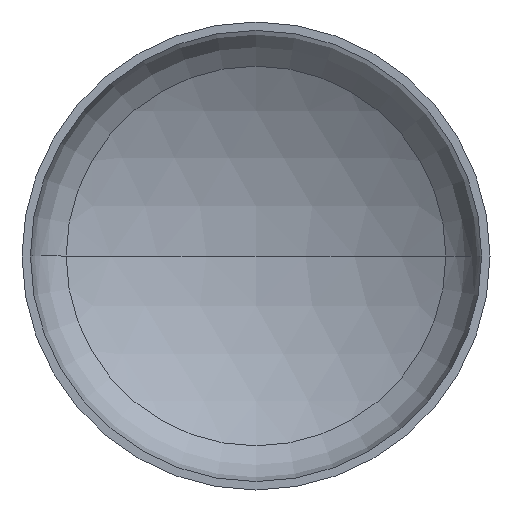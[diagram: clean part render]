
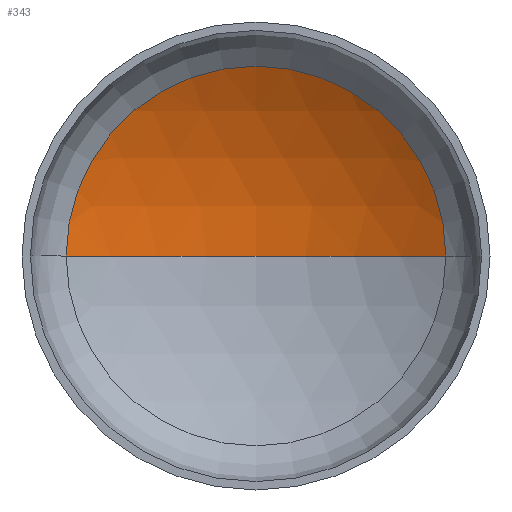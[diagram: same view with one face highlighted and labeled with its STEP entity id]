
A CAD part, front view. The second image highlights one B-rep face of the part: STEP entity #343.
In plain terms, the highlighted spherical face has radius 800 mm.
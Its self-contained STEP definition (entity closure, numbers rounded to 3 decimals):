
#6 = CARTESIAN_POINT ( 'NONE',  ( 0., 188.604, 0. ) ) ;
#20 = AXIS2_PLACEMENT_3D ( 'NONE', #143, #100, #320 ) ;
#26 = EDGE_LOOP ( 'NONE', ( #120, #111, #37 ) ) ;
#37 = ORIENTED_EDGE ( 'NONE', *, *, #153, .T. ) ;
#38 = AXIS2_PLACEMENT_3D ( 'NONE', #269, #267, #239 ) ;
#43 = AXIS2_PLACEMENT_3D ( 'NONE', #218, #214, #215 ) ;
#44 = AXIS2_PLACEMENT_3D ( 'NONE', #6, #62, #296 ) ;
#49 = FACE_OUTER_BOUND ( 'NONE', #26, .T. ) ;
#62 = DIRECTION ( 'NONE',  ( 0., -1., 0. ) ) ;
#98 = VERTEX_POINT ( 'NONE', #333 ) ;
#100 = DIRECTION ( 'NONE',  ( 0., 0., -1. ) ) ;
#103 = VERTEX_POINT ( 'NONE', #339 ) ;
#109 = CIRCLE ( 'NONE', #38, 800. ) ;
#111 = ORIENTED_EDGE ( 'NONE', *, *, #164, .T. ) ;
#120 = ORIENTED_EDGE ( 'NONE', *, *, #184, .F. ) ;
#127 = CIRCLE ( 'NONE', #44, 405.581 ) ;
#140 = VERTEX_POINT ( 'NONE', #220 ) ;
#143 = CARTESIAN_POINT ( 'NONE',  ( 0., -500.964, 0. ) ) ;
#153 = EDGE_CURVE ( 'NONE', #140, #98, #127, .T. ) ;
#164 = EDGE_CURVE ( 'NONE', #103, #140, #330, .T. ) ;
#172 = SPHERICAL_SURFACE ( 'NONE', #20, 800. ) ;
#184 = EDGE_CURVE ( 'NONE', #103, #98, #109, .T. ) ;
#214 = DIRECTION ( 'NONE',  ( 0., 0., -1. ) ) ;
#215 = DIRECTION ( 'NONE',  ( -1., 0., 0. ) ) ;
#218 = CARTESIAN_POINT ( 'NONE',  ( 0., -500.964, 0. ) ) ;
#220 = CARTESIAN_POINT ( 'NONE',  ( 405.581, 188.604, 0. ) ) ;
#239 = DIRECTION ( 'NONE',  ( 1., 0., 0. ) ) ;
#267 = DIRECTION ( 'NONE',  ( 0., 0., 1. ) ) ;
#269 = CARTESIAN_POINT ( 'NONE',  ( 0., -500.964, 0. ) ) ;
#296 = DIRECTION ( 'NONE',  ( 1., 0., 0. ) ) ;
#320 = DIRECTION ( 'NONE',  ( -1., 0., 0. ) ) ;
#330 = CIRCLE ( 'NONE', #43, 800. ) ;
#333 = CARTESIAN_POINT ( 'NONE',  ( -405.581, 188.604, 0. ) ) ;
#339 = CARTESIAN_POINT ( 'NONE',  ( 0., 299.036, 0. ) ) ;
#343 = ADVANCED_FACE ( 'NONE', ( #49 ), #172, .F. ) ;
